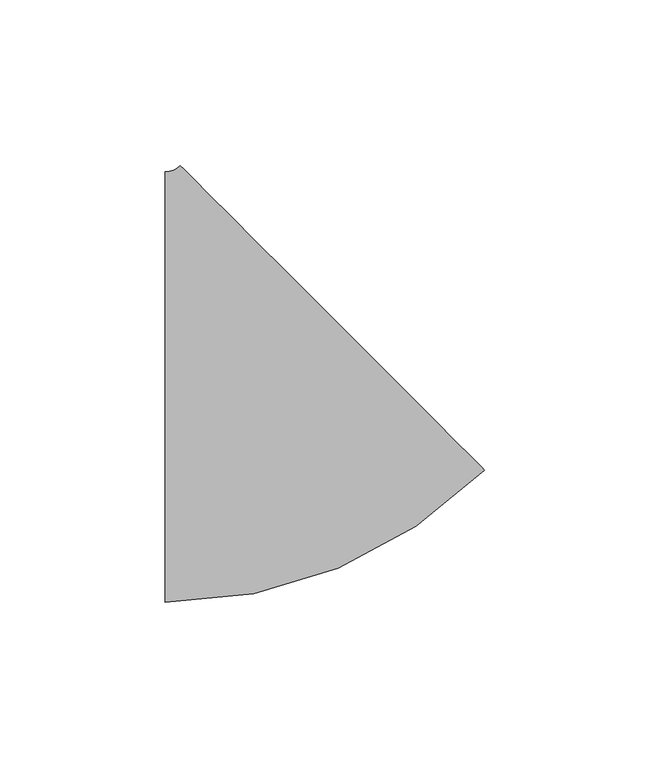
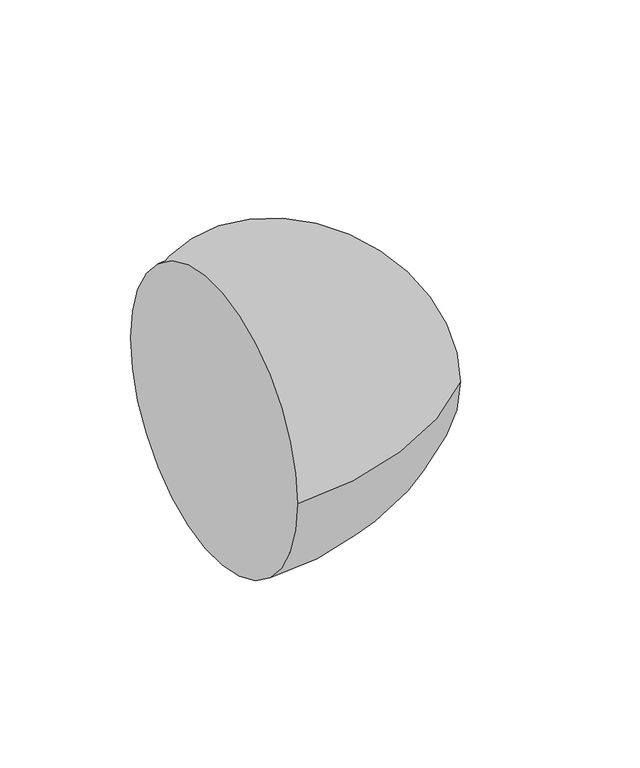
"""IFC4 building model written with IfcOpenShell, lengths in millimetres: pipe fitting geometry, M_Codo - Genérico : Estándar."""

from ifc_helpers import new_model, si_unit, point, frame, origin, place, context, project, spatial, circle_curve, ellipse_curve, trimmed, source, transform, mapped, element, save
from ifc_brep_helpers import plane_surface, revolved_surface, advanced_brep


def pipe_fitting_d8548324(model_context):
    return source(origin(), model_context, "Body", "AdvancedBrep", [
        advanced_brep(
        [(-29.5875757, -65.0875, 0.0), (-29.5875757, 65.0875, 0.0), (66.9437049, -25.1067256, 0.0), (-25.0977487, 66.9470709, 0.0)],
        [
            (0, 1, circle_curve(frame((-29.5875757, 0.0, 0.0), z_axis=(-1.0, 0.0, 0.0), x_axis=(0.0, 1.0, 0.0)), 65.0875)),
            (1, 0, circle_curve(frame((-29.5875757, 0.0, 0.0), z_axis=(-1.0, 0.0, 0.0), x_axis=(0.0, 1.0, 0.0)), 65.0875)),
            (2, 3, circle_curve(frame((20.9229781, 20.9201727, 0.0), z_axis=(0.7071541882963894, 0.7070593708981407, 0.0), x_axis=(-0.7070593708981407, 0.7071541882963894, 0.0)), 65.0875)),
            (3, 2, circle_curve(frame((20.9229781, 20.9201727, 0.0), z_axis=(0.7071541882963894, 0.7070593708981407, 0.0), x_axis=(-0.7070593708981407, 0.7071541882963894, 0.0)), 65.0875)),
            (3, 1, circle_curve(frame((-29.5875757, 71.4375, 0.0), z_axis=(0.0, 0.0, -1.0), x_axis=(0.0, -1.0, 0.0)), 6.35)),
            (0, 2, circle_curve(frame((-29.5875757, 71.4375, 0.0), z_axis=(0.0, 0.0, 1.0), x_axis=(0.0, -1.0, 0.0)), 136.525)),
        ],
        [
            plane_surface(frame((-29.5875757, 0.0, 0.0), z_axis=(-1.0, 0.0, 0.0), x_axis=(0.0, 0.0, 1.0))),
            plane_surface(frame((20.9229781, 20.9201727, 0.0), z_axis=(0.7071541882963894, 0.7070593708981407, 0.0), x_axis=(0.0, 0.0, 1.0))),
            revolved_surface(trimmed(ellipse_curve(frame((-29.5875757, 0.0, 0.0), z_axis=(-1.0, 0.0, 0.0), x_axis=(0.0, 1.0, 0.0)), 65.0875, 65.0875), [point((-29.5875757, -65.0875, 0.0))], [point((-29.5875757, 65.0875, 0.0))], True, "CARTESIAN"), (-29.5875757, 71.4375, 0.0), (0.0, 0.0, 1.0)),
            revolved_surface(trimmed(ellipse_curve(frame((-29.5875757, 0.0, 0.0), z_axis=(-1.0, 0.0, 0.0), x_axis=(0.0, 1.0, 0.0)), 65.0875, 65.0875), [point((-29.5875757, 65.0875, 0.0))], [point((-29.5875757, -65.0875, 0.0))], True, "CARTESIAN"), (-29.5875757, 71.4375, 0.0), (0.0, 0.0, 1.0)),
        ],
        [
            (0, [[1, 2]]),
            (1, [[3, 4]]),
            (2, [[5, -1, 6, -4]]),
            (3, [[-6, -2, -5, -3]]),
        ],
    ),
    ])


if __name__ == "__main__":
    model = new_model("IFC4")
    model_context = context("Model", 3, world=origin())
    ifc_project = project(units=[si_unit("LENGTHUNIT", "METRE", prefix="MILLI")], contexts=[model_context])
    site = spatial("IfcSite", under=ifc_project)
    building = spatial("IfcBuilding", under=site)
    placement = place(None, origin())
    pipe_fitting_shape = pipe_fitting_d8548324(model_context)
    element("IfcPipeFitting", 1, ObjectType="M_Codo - Genérico : Estándar", at=placement, inside=building, context=model_context, shape_type="MappedRepresentation", body=[
        mapped(pipe_fitting_shape, transform((0.0, 0.0, 0.0), x_axis=(1.0, 0.0, 0.0), y_axis=(0.0, 1.0, 0.0), z_axis=(0.0, 0.0, 1.0))),
    ])
    save(model, "model.ifc")
